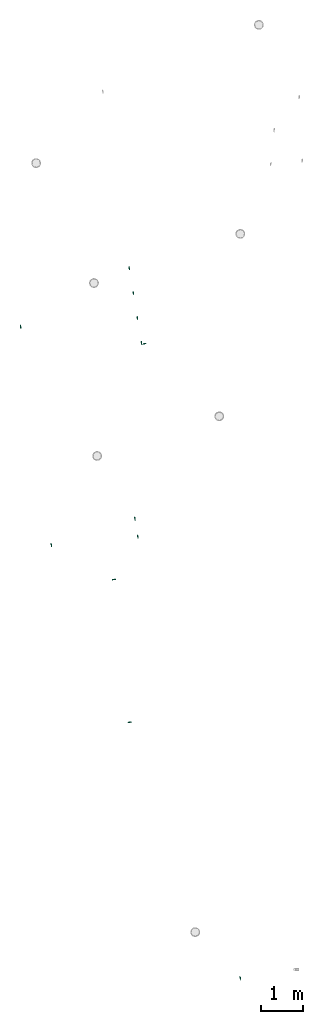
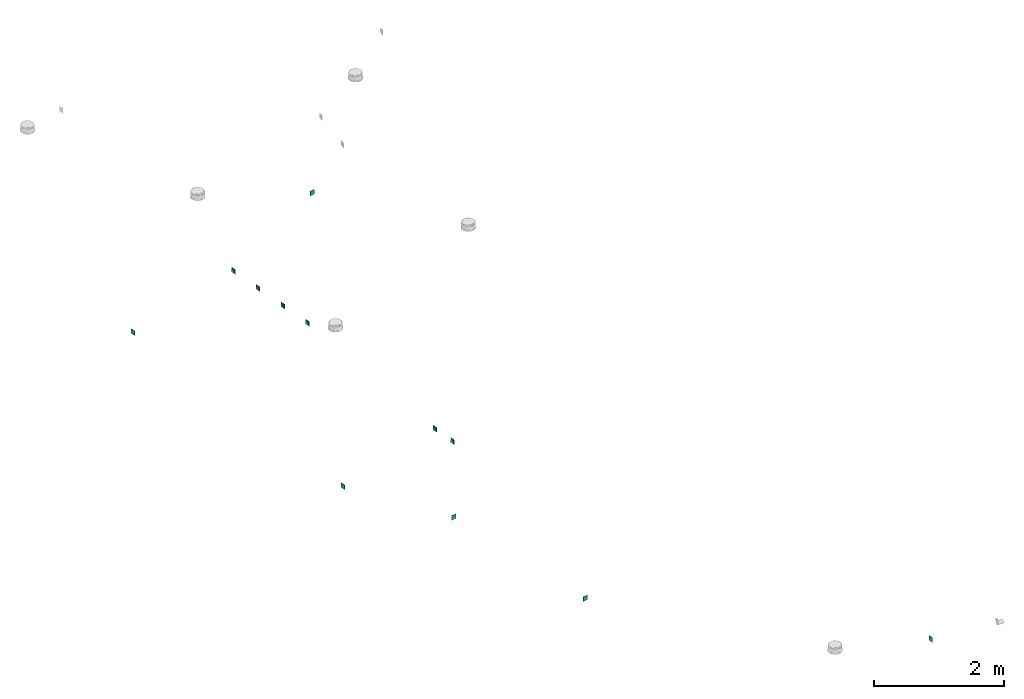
# One storey, part 1 of 2: 12 flow terminals.
"""IFC2X3 building model written with IfcOpenShell, lengths in millimetres."""

from ifc_helpers import new_model, entity, si_unit, converted_unit, derived_unit, direction, frame, frame_2d, origin, origin_with_axes, origin_2d_with_axis, place, context, subcontext, project, spatial, polyline, rectangle, outline, extrude, source, transform, mapped, material, type_object, element, save


model = new_model("IFC2X3")

# Units and contexts
plan_context = context("Plan", 3, precision=1e-05, world=origin_with_axes())
model_context = context("Model", 3, precision=0.01, world=origin(), true_north=direction((6.12323399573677e-17, 1.0)))
body_context = subcontext(model_context, "Body", "Model", "MODEL_VIEW")
ifc_project = project(units=[converted_unit("PLANEANGLEUNIT", "DEGREE", entity("IfcPositiveLengthMeasure", 0.0174532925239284), si_unit("PLANEANGLEUNIT", "RADIAN"), dimensions=[0, 0, 0, 0, 0, 0, 0]), si_unit("AREAUNIT", "SQUARE_METRE"), si_unit("LENGTHUNIT", "METRE", prefix="MILLI"), si_unit("MASSUNIT", "GRAM", prefix="KILO"), si_unit("POWERUNIT", "WATT"), si_unit("PRESSUREUNIT", "PASCAL", prefix="KILO"), si_unit("FORCEUNIT", "NEWTON", prefix="KILO"), si_unit("ELECTRICVOLTAGEUNIT", "VOLT"), si_unit("ELECTRICCURRENTUNIT", "AMPERE"), si_unit("THERMODYNAMICTEMPERATUREUNIT", "DEGREE_CELSIUS"), si_unit("TIMEUNIT", "SECOND"), si_unit("VOLUMEUNIT", "CUBIC_METRE"), derived_unit("LINEARVELOCITYUNIT", [(si_unit("LENGTHUNIT", "METRE"), 1), (si_unit("TIMEUNIT", "SECOND"), -1)]), derived_unit("VOLUMETRICFLOWRATEUNIT", [(si_unit("VOLUMEUNIT", "CUBIC_METRE"), 1), (si_unit("TIMEUNIT", "SECOND"), -1)]), derived_unit("THERMALTRANSMITTANCEUNIT", [(si_unit("POWERUNIT", "WATT"), 1), (si_unit("THERMODYNAMICTEMPERATUREUNIT", "KELVIN"), -1), (si_unit("AREAUNIT", "SQUARE_METRE"), -1)]), derived_unit("SOUNDPRESSUREUNIT", [(si_unit("PRESSUREUNIT", "PASCAL"), 1)])], contexts=[model_context, plan_context])

# Site, building, storey
site_placement = place(None, frame((-743.430438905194, 3176.84670324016, 0.0), z_axis=(0.0, 0.0, 1.0), x_axis=(-0.160236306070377, 0.987078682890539, 0.0)))
site = spatial("IfcSite", under=ifc_project, at=site_placement, Name="Default", CompositionType="ELEMENT")
building_placement = place(site_placement, origin_with_axes())
building = spatial("IfcBuilding", under=site, at=building_placement, CompositionType="ELEMENT")
storey_placement = place(building_placement, frame((0.0, 0.0, 59000.0), z_axis=(0.0, 0.0, 1.0), x_axis=(1.0, 0.0, 0.0)))
storey = spatial("IfcBuildingStorey", under=building, at=storey_placement, Name="Nivå F", CompositionType="ELEMENT", Elevation=59000.0)

# Flow terminals
ifc_material = material(Name="<Unnamed>")
electric_appliance_type_1 = type_object("IfcElectricApplianceType", Name="Tele-Data gen uttak dobbel:Tele-Dara gen.uttat dobbel, for WiFi", PredefinedType="NOTDEFINED", material=ifc_material)
shared_shape = source(origin(), body_context, "Body", "SweptSolid", [
    extrude(outline(polyline([(-32.5, -7.07106781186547), (32.5, -7.07106781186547), (42.5, 7.07106781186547), (-42.5, 7.07106781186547), (-32.5, -7.07106781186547)])), frame((0.0, 9.92928932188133, 37.4292893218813), z_axis=(0.0, 0.707106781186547, 0.707106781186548), x_axis=(-1.0, 0.0, 0.0)), (0.0, 0.0, 1.0), 0.200000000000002),
    extrude(outline(polyline([(-32.5, -7.07106781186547), (32.5, -7.07106781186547), (42.5, 7.07106781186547), (-42.5, 7.07106781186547), (-32.5, -7.07106781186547)])), frame((0.0, 10.0707106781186, -37.5707106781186), z_axis=(0.0, -0.707106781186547, 0.707106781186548), x_axis=(-1.0, 0.0, 0.0)), (0.0, 0.0, 1.0), 0.200000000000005),
    extrude(outline(polyline([(-30.3108891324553, -30.6186217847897), (-12.9903810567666, -30.6186217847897), (24.5373864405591, 22.4536559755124), (18.7638837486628, 38.7835875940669), (-30.3108891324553, -30.6186217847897)])), frame((-37.5707106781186, 10.0707106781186, 0.0), z_axis=(0.707106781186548, -0.707106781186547, 0.0), x_axis=(0.577350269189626, 0.577350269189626, 0.577350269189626)), (0.0, 0.0, 1.0), 0.199999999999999),
    extrude(outline(polyline([(-30.3108891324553, -30.6186217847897), (-12.9903810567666, -30.6186217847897), (24.5373864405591, 22.4536559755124), (18.7638837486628, 38.783587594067), (-30.3108891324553, -30.6186217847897)])), frame((37.4292893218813, 9.92928932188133, 0.0), z_axis=(0.707106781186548, 0.707106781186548, 0.0), x_axis=(-0.577350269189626, 0.577350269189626, 0.577350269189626)), (0.0, 0.0, 1.0), 0.199999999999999),
    extrude(rectangle(XDim=0.199999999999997, YDim=4.99999999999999, at=frame_2d((-4.2257863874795e-15, 0.0), x_axis=(1.0, 0.0))), frame((42.5, 2.5, -42.5)), (0.0, 0.0, 1.0), 84.9999999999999),
    extrude(rectangle(XDim=4.99999999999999, YDim=84.9999999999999, at=frame_2d((6.66133814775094e-16, 0.0), x_axis=(1.0, 0.0))), frame((0.0, 2.5, -42.6), z_axis=(0.0, 0.0, 1.0), x_axis=(0.0, -1.0, 0.0)), (0.0, 0.0, 1.0), 0.199999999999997),
    extrude(rectangle(XDim=0.199999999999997, YDim=4.99999999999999, at=frame_2d((-4.2257863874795e-15, 0.0), x_axis=(1.0, 0.0))), frame((-42.5, 2.5, -42.5)), (0.0, 0.0, 1.0), 84.9999999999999),
    extrude(rectangle(XDim=0.2, YDim=84.9999999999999, at=origin_2d_with_axis()), frame((0.0, 0.0, -42.5), z_axis=(0.0, 0.0, 1.0), x_axis=(0.0, 1.0, 0.0)), (0.0, 0.0, 1.0), 84.9999999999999),
    extrude(rectangle(XDim=4.99999999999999, YDim=84.9999999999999, at=frame_2d((6.66133814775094e-16, 0.0), x_axis=(1.0, 0.0))), frame((0.0, 2.5, 42.4), z_axis=(0.0, 0.0, 1.0), x_axis=(0.0, -1.0, 0.0)), (0.0, 0.0, 1.0), 0.199999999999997),
    extrude(rectangle(XDim=0.200000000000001, YDim=64.9999999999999, at=frame_2d((2.11636264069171e-15, 0.0), x_axis=(1.0, 0.0))), frame((0.0, 15.0, -32.5), z_axis=(0.0, 0.0, 1.0), x_axis=(0.0, 1.0, 0.0)), (0.0, 0.0, 1.0), 64.9999999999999),
    extrude(rectangle(XDim=0.199999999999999, YDim=15.0, at=frame_2d((1.06165076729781e-15, 0.0), x_axis=(1.0, 0.0))), frame((-10.0, 17.0099999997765, 0.500000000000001), z_axis=(0.0, 0.0, 1.0), x_axis=(0.0, 1.0, 0.0)), (0.0, 0.0, 1.0), 15.0),
    extrude(rectangle(XDim=0.199999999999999, YDim=15.0, at=frame_2d((1.06165076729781e-15, 0.0), x_axis=(1.0, 0.0))), frame((10.0, 17.0099999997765, 0.500000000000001), z_axis=(0.0, 0.0, 1.0), x_axis=(0.0, 1.0, 0.0)), (0.0, 0.0, 1.0), 15.0),
    extrude(rectangle(XDim=64.9999999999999, YDim=2.0, at=origin_2d_with_axis()), frame((0.0, 16.0, 27.5)), (0.0, 0.0, 1.0), 4.99999999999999),
    extrude(rectangle(XDim=64.9999999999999, YDim=2.0, at=origin_2d_with_axis()), frame((0.0, 16.0, -32.5)), (0.0, 0.0, 1.0), 50.0),
])
for number, where, z_axis, x_axis in (
    (1, (760477.619644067, -504437.483203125, 2900.0), (0.0, 0.0, 1.0), (-1.0, 0.0, 0.0)),
    (2, (775676.560546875, -504612.697077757, 2930.0), (0.0, 0.0, 1.0), (0.0, -1.0, 0.0)),
):
    element("IfcFlowTerminal", number, at=place(storey_placement, frame(where, z_axis=z_axis, x_axis=x_axis)), inside=storey, type_object=electric_appliance_type_1, material=ifc_material, Name="Tele-Data gen uttak dobbel:Tele-Dara gen.uttat dobbel, for WiFi", ObjectType="Tele-Data gen uttak dobbel:Tele-Dara gen.uttat dobbel, for WiFi", context=body_context, shape_type="MappedRepresentation", body=[
        mapped(shared_shape, transform((0.0, 0.0, 0.0), scale=1.0)),
    ])
electric_appliance_type_2 = type_object("IfcElectricApplianceType", Name="Tele-Data gen uttak dobbel:Tele-Data gen. uttak dobbel", PredefinedType="NOTDEFINED", material=ifc_material)
for number, where, z_axis, x_axis, name in (
    (3, (766877.518560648, -502831.362838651, 900.0), (0.0, 0.0, 1.0), (0.0, -1.0, 0.0), "Tele-Data gen uttak dobbel:Tele-Data gen. uttak dobbel"),
    (4, (776554.152643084, -501772.480498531, 1100.0), (0.0, 0.0, 1.0), (-1.0, 0.0, 0.0), "Tele-Data gen uttak dobbel:Tele-Data gen. uttak dobbel"),
    (5, (771629.256338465, -503733.158192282, 1100.0), (0.0, 0.0, 1.0), (0.99999907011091, 0.00136373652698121, 0.0), "Tele-Data gen uttak dobbel:Tele-Data gen. uttak dobbel"),
    (6, (771195.142810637, -503733.158192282, 1100.0), (0.0, 0.0, 1.0), (0.99999907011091, 0.00136373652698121, 0.0), "Tele-Data gen uttak dobbel:Tele-Data gen. uttak dobbel"),
    (7, (775718.3998416, -504553.301459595, 500.0), (0.0, 0.0, 1.0), (0.99999907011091, 0.00136373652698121, 0.0), "Tele-Data gen uttak dobbel:Tele-Data gen. uttak dobbel"),
    (8, (776318.3998416, -504553.301459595, 500.0), (0.0, 0.0, 1.0), (0.99999907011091, 0.00136373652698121, 0.0), "Tele-Data gen uttak dobbel:Tele-Data gen. uttak dobbel"),
    (9, (776918.3998416, -504553.301459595, 500.0), (0.0, 0.0, 1.0), (0.99999907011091, 0.00136373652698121, 0.0), "Tele-Data gen uttak dobbel:Tele-Data gen. uttak dobbel"),
    (10, (777512.646656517, -504553.301459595, 500.0), (0.0, 0.0, 1.0), (0.99999907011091, 0.00136373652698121, 0.0), "Tele-Data gen uttak dobbel:Tele-Data gen. uttak dobbel"),
    (11, (771327.309019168, -501662.395800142, 1100.0), (0.0, 0.0, 1.0), (-0.99999907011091, -0.00136373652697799, 0.0), "Tele-Data gen uttak dobbel:Tele-Data gen. uttak dobbel"),
    (12, (770277.619644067, -503002.480498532, 500.0), (0.0, 0.0, 1.0), (0.0, -1.0, 0.0), "Tele-Data gen uttak dobbel:Tele-Data gen. uttak dobbel"),
):
    element("IfcFlowTerminal", number, at=place(storey_placement, frame(where, z_axis=z_axis, x_axis=x_axis)), inside=storey, type_object=electric_appliance_type_2, material=ifc_material, Name=name, ObjectType="Tele-Data gen uttak dobbel:Tele-Data gen. uttak dobbel", context=body_context, shape_type="MappedRepresentation", body=[
        mapped(shared_shape, transform((0.0, 0.0, 0.0), scale=1.0)),
    ])

save(model, "model.ifc")
